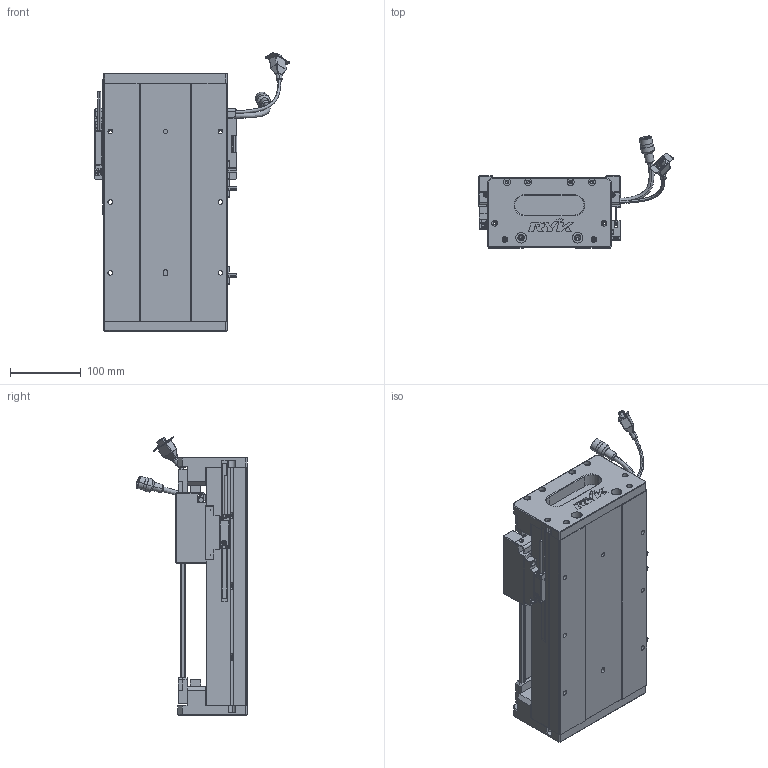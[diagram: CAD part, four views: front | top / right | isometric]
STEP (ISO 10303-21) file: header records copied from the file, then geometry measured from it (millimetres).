
FILE_DESCRIPTION (( 'STEP AP203' ), '1' );
FILE_NAME ('Z1-RY170D-1-L500-B-K.SLDASM_0150.step', '2021-05-17T08:51:10', ( '盈信电脑' ), ( '东莞市道滘镇水果街19号' ), 'SwSTEP 2.0', 'SolidWorks 2016', '' );
FILE_SCHEMA (( 'CONFIG_CONTROL_DESIGN' ));
Length unit declared in the file: millimetre
Products named in the file (36): SEAL; SCALE; HARNESS; SCREW-M1.7; RY170直线电机感应器672光电感应片; 080黍杅芛假蚾釱21遴; Z1-RY170臏賑輸(21遴); Z1-RY170-L500耀郪菁釱_0150; LABEL-Part-1; SCALE-Part-2; COVER-Part-1; Z-RY170詩湍奻揤裔; Z1-RY170D-1-L500-B-K.SLDASM_0150; HARNESS-Part-1; SCREW-M1.6-2; SHIELDPLATE; HARNESS-Part-2; PBU_SHEET; Z1-RY170-L500詩湍145mm遵_0150; SEAL-Part-1; 140雄赽晤鎢ん堤盄; COVER; SCREW-M1.6-1; SCREW-M1.7-1; SCREW-M1.6; PSLH080_PSLF2; LABEL; SCALE-Part-1; SCREW-M1.6-3; 覜茼ん672; 榋妏寠巭燃_暯_M2_2; 140蚥薯蝶輸; Z-170詩湍傷裔啣; HOLDER0; 170-Z-臏賑輸盄裔(21遴); Z-RY170詩湍狟揤裔
Assembly tree (41 placements, depth 4):
  Z1-RY170D-1-L500-B-K.SLDASM_0150
    Z1-RY170-L500耀郪菁釱_0150
    RY170直线电机感应器672光电感应片
    Z1-RY170臏賑輸(21遴)
    覜茼ん672  x3
    PSLH080_PSLF2
      SCALE
        SCALE-Part-1
        SCALE-Part-2
      HARNESS
        HARNESS-Part-1
        HARNESS-Part-2
      LABEL
        LABEL-Part-1
      COVER
        COVER-Part-1
      SEAL
        SEAL-Part-1
      榋妏寠巭燃_暯_M2_2
      SHIELDPLATE
      SCREW-M1.7
      SCREW-M1.7-1
      PBU_SHEET
      SCREW-M1.6
      SCREW-M1.6-1
      SCREW-M1.6-2
      SCREW-M1.6-3
      HOLDER0
    080黍杅芛假蚾釱21遴
    Z1-RY170-L500詩湍145mm遵_0150
    Z-170詩湍傷裔啣  x2
    Z-RY170詩湍奻揤裔  x2
    Z-RY170詩湍狟揤裔  x2
    140蚥薯蝶輸  x2
    170-Z-臏賑輸盄裔(21遴)
    140雄赽晤鎢ん堤盄
Bounding box: 275.34 x 158.11 x 393.73 mm (x, y, z)
Volume: 2789028.4 mm3; surface area: 678610.3 mm2
Topology: 36 solids, 36 shells, 2464 faces, 6395 edges, 4043 vertices
Faces by surface type: plane 1068, cylinder 1010, cone 264, torus 69, bspline 53
Entity records: 67467 total; most frequent: CARTESIAN_POINT 15568, DIRECTION 10181, ORIENTED_EDGE 9834, EDGE_CURVE 4917, AXIS2_PLACEMENT_3D 3682, VERTEX_POINT 3161, VECTOR 2817, LINE 2817
